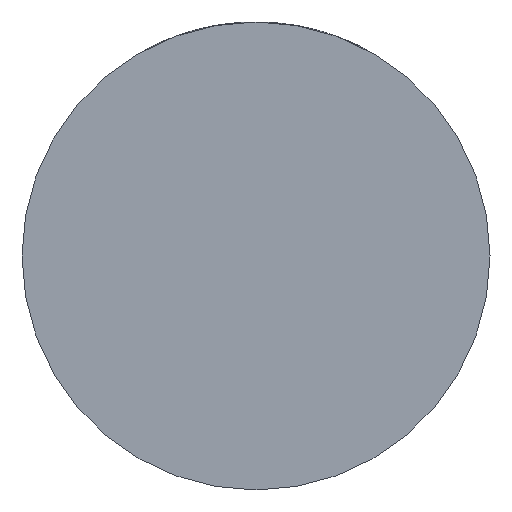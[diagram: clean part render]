
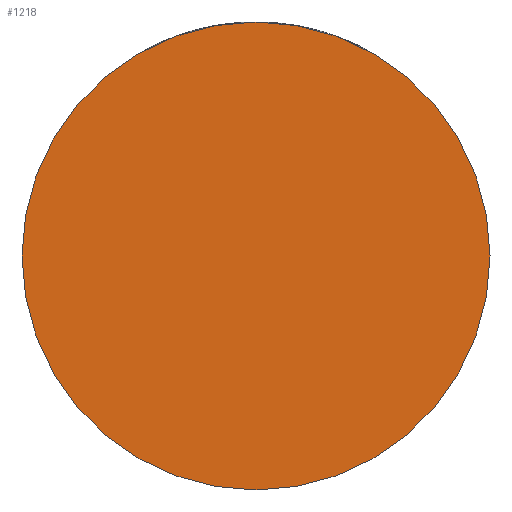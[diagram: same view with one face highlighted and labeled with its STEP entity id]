
A CAD part, front view. The second image highlights one B-rep face of the part: STEP entity #1218.
In plain terms, the highlighted planar face has unit normal (0, -1, 0).
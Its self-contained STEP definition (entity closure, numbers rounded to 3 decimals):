
#203 = VERTEX_POINT ( 'NONE', #2982 ) ;
#378 = CARTESIAN_POINT ( 'NONE',  ( 0., -36., 0. ) ) ;
#408 = DIRECTION ( 'NONE',  ( 0., -1., 0. ) ) ;
#522 = AXIS2_PLACEMENT_3D ( 'NONE', #4241, #3555, #2581 ) ;
#527 = EDGE_LOOP ( 'NONE', ( #1909, #3817 ) ) ;
#845 = EDGE_CURVE ( 'NONE', #4421, #203, #2525, .T. ) ;
#1218 = ADVANCED_FACE ( 'NONE', ( #2562 ), #2837, .T. ) ;
#1423 = DIRECTION ( 'NONE',  ( 1., 0., 0. ) ) ;
#1598 = AXIS2_PLACEMENT_3D ( 'NONE', #3807, #408, #1423 ) ;
#1757 = DIRECTION ( 'NONE',  ( 0., -1., 0. ) ) ;
#1909 = ORIENTED_EDGE ( 'NONE', *, *, #845, .T. ) ;
#2107 = EDGE_CURVE ( 'NONE', #203, #4421, #3554, .T. ) ;
#2525 = CIRCLE ( 'NONE', #3553, 39. ) ;
#2562 = FACE_OUTER_BOUND ( 'NONE', #527, .T. ) ;
#2581 = DIRECTION ( 'NONE',  ( 1., 0., 0. ) ) ;
#2596 = CARTESIAN_POINT ( 'NONE',  ( -39., -36., 0. ) ) ;
#2837 = PLANE ( 'NONE',  #522 ) ;
#2982 = CARTESIAN_POINT ( 'NONE',  ( 39., -36., 0. ) ) ;
#3553 = AXIS2_PLACEMENT_3D ( 'NONE', #378, #1757, #4067 ) ;
#3554 = CIRCLE ( 'NONE', #1598, 39. ) ;
#3555 = DIRECTION ( 'NONE',  ( 0., -1., 0. ) ) ;
#3807 = CARTESIAN_POINT ( 'NONE',  ( 0., -36., 0. ) ) ;
#3817 = ORIENTED_EDGE ( 'NONE', *, *, #2107, .T. ) ;
#4067 = DIRECTION ( 'NONE',  ( 1., 0., 0. ) ) ;
#4241 = CARTESIAN_POINT ( 'NONE',  ( 0., -36., 0. ) ) ;
#4421 = VERTEX_POINT ( 'NONE', #2596 ) ;
